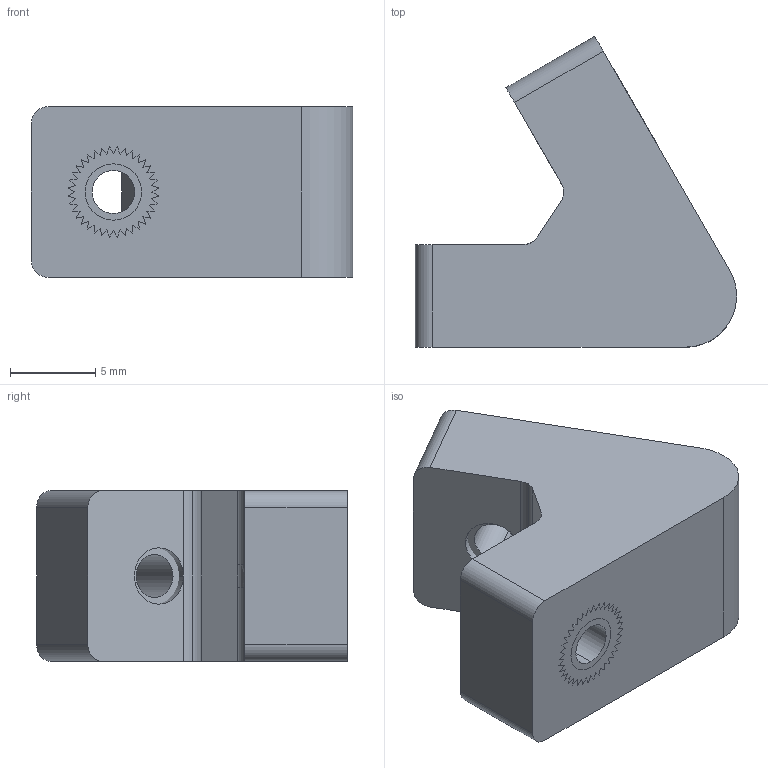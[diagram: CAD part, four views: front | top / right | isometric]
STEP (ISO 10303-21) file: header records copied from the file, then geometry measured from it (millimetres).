
FILE_DESCRIPTION (( 'STEP AP214' ), '1' );
FILE_NAME ('60° Joint.STEP', '2024-06-13T13:56:58', ( '' ), ( '' ), 'SwSTEP 2.0', 'SolidWorks 2023', '' );
FILE_SCHEMA (( 'AUTOMOTIVE_DESIGN' ));
Length unit declared in the file: millimetre
Products named in the file (3): M3 Insert; 60° Joint; 60° Joint PLA
Assembly tree (3 placements, depth 2):
  60° Joint
    60° Joint PLA
    M3 Insert  x2
Bounding box: 18.8 x 18.2 x 10 mm (x, y, z)
Volume: 1926.1 mm3; surface area: 1569.5 mm2
Topology: 3 solids, 3 shells, 612 faces, 1523 edges, 916 vertices
Faces by surface type: plane 445, cylinder 166, bspline 1
Entity records: 9465 total; most frequent: DIRECTION 1690, CARTESIAN_POINT 1633, ORIENTED_EDGE 1590, EDGE_CURVE 795, AXIS2_PLACEMENT_3D 573, LINE 544, VECTOR 544, VERTEX_POINT 480
